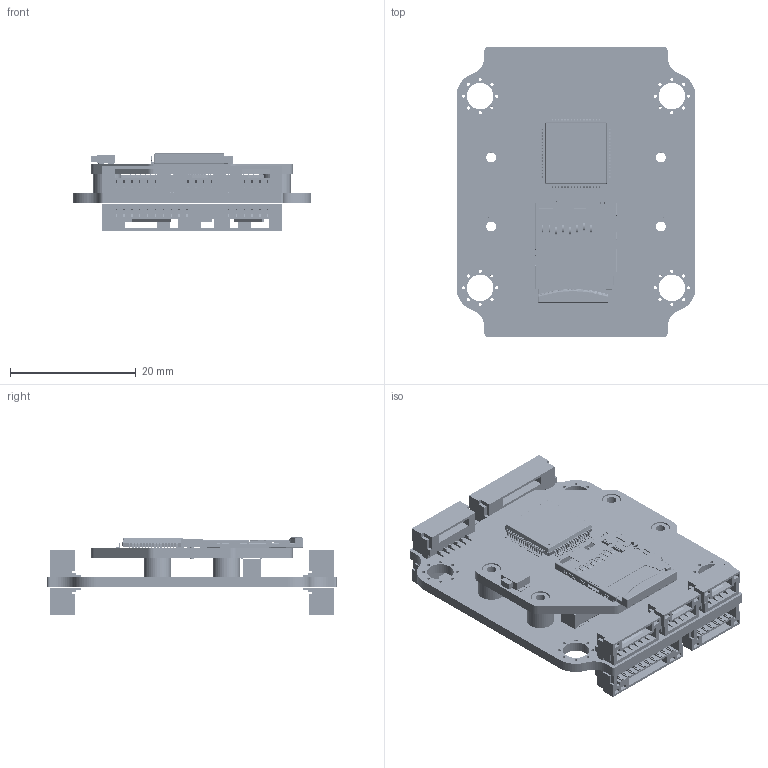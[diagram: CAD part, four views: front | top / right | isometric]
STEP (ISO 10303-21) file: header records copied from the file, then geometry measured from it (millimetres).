
FILE_DESCRIPTION(/* description */ (''),/* implementation_level */ '2;1');
FILE_NAME(/* name */ 'radianF405Full_Public v1.step',/* time_stamp */ '2024-10-06T14:08:15+03:00',/* author */ (''),/* organization */ (''),/* preprocessor_version */ 'ST-DEVELOPER v20',/* originating_system */ 'Autodesk Translation Framework v13.20.0.188',/* authorisation */ '');
FILE_SCHEMA (('AUTOMOTIVE_DESIGN { 1 0 10303 214 3 1 1 }'));
Products named in the file (14): radianF405Full_Public; radianF405; COMPOUND; DF40C-100DP-0.4V_51_; COMPOUND (1); JST_GH_SM10B-GHS-TB_1x10-1MP_P1.25mm_Horizontal; SOLID (2); JST_GH_SM06B-GHS-TB_1x06-1MP_P1.25mm_Horizontal; SOLID; JST_GH_SM04B-GHS-TB_1x04-1MP_P1.25mm_Horizontal; SOLID (3); JST_GH_SM03B-GHS-TB_1x03-1MP_P1.25mm_Horizontal; SOLID (14); radian_carrier PCB
Assembly tree (19 placements, depth 3):
  radianF405Full_Public
    JST_GH_SM06B-GHS-TB_1x06-1MP_P1.25mm_Horizontal  x4
      SOLID
    JST_GH_SM10B-GHS-TB_1x10-1MP_P1.25mm_Horizontal  x2
      SOLID (2)
    radianF405
      COMPOUND
    JST_GH_SM04B-GHS-TB_1x04-1MP_P1.25mm_Horizontal  x3
      SOLID (3)
    DF40C-100DP-0.4V_51_
      COMPOUND (1)
    JST_GH_SM03B-GHS-TB_1x03-1MP_P1.25mm_Horizontal
      SOLID (14)
    radian_carrier PCB
Bounding box: 38 x 46 x 12.24 mm (x, y, z)
Volume: 5637.4 mm3; surface area: 12212.3 mm2
Topology: 131 solids, 131 shells, 13228 faces, 37629 edges, 24875 vertices
Faces by surface type: plane 10992, cylinder 2168, bspline 52, cone 8, sphere 6, torus 2
Full cylindrical faces by diameter (mm): 0.235 x1, 0.25 x1, 0.37 x1, 0.4 x1, 0.5 x33, 0.7 x8, 1.567 x4, 2.2 x4, 2.8 x4, 3 x4, 4.2 x4, 4.35 x4
Entity records: 377045 total; most frequent: CARTESIAN_POINT 68456, ORIENTED_EDGE 66270, DIRECTION 60579, EDGE_CURVE 33135, LINE 28665, VECTOR 28665, VERTEX_POINT 21907, AXIS2_PLACEMENT_3D 15957
